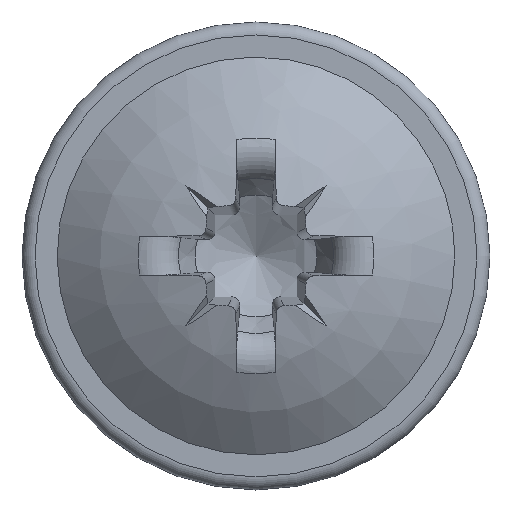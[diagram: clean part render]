
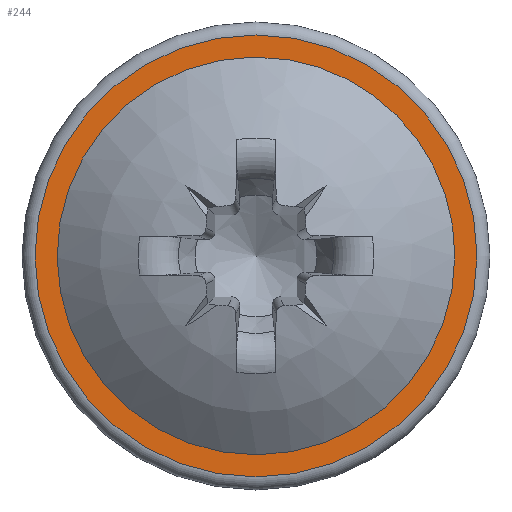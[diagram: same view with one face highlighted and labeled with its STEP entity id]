
A CAD part, top view. The second image highlights one B-rep face of the part: STEP entity #244.
In plain terms, the highlighted planar face has unit normal (0, 0, 1).
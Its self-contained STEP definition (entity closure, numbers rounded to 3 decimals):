
#64=PLANE('',#1399);
#218=FACE_BOUND('',#412,.T.);
#219=FACE_BOUND('',#413,.T.);
#244=ADVANCED_FACE('',(#218,#219),#64,.F.);
#412=EDGE_LOOP('',(#614));
#413=EDGE_LOOP('',(#615));
#492=CIRCLE('',#1357,3.825);
#527=CIRCLE('',#1398,4.25);
#614=ORIENTED_EDGE('',*,*,#1131,.T.);
#615=ORIENTED_EDGE('',*,*,#1080,.F.);
#950=VERTEX_POINT('',#2240);
#999=VERTEX_POINT('',#2550);
#1080=EDGE_CURVE('',#950,#950,#492,.T.);
#1131=EDGE_CURVE('',#999,#999,#527,.T.);
#1357=AXIS2_PLACEMENT_3D('',#2239,#1468,#1469);
#1398=AXIS2_PLACEMENT_3D('',#2549,#1551,#1552);
#1399=AXIS2_PLACEMENT_3D('',#2551,#1553,#1554);
#1468=DIRECTION('',(0.,0.,1.));
#1469=DIRECTION('',(1.,0.,0.));
#1551=DIRECTION('',(0.,0.,1.));
#1552=DIRECTION('',(-1.,0.,0.));
#1553=DIRECTION('',(0.,0.,-1.));
#1554=DIRECTION('',(-1.,0.,0.));
#2239=CARTESIAN_POINT('',(0.,0.,1.));
#2240=CARTESIAN_POINT('',(3.825,0.,1.));
#2549=CARTESIAN_POINT('',(0.,0.,1.));
#2550=CARTESIAN_POINT('',(-4.25,0.,1.));
#2551=CARTESIAN_POINT('',(0.,4.5,1.));
